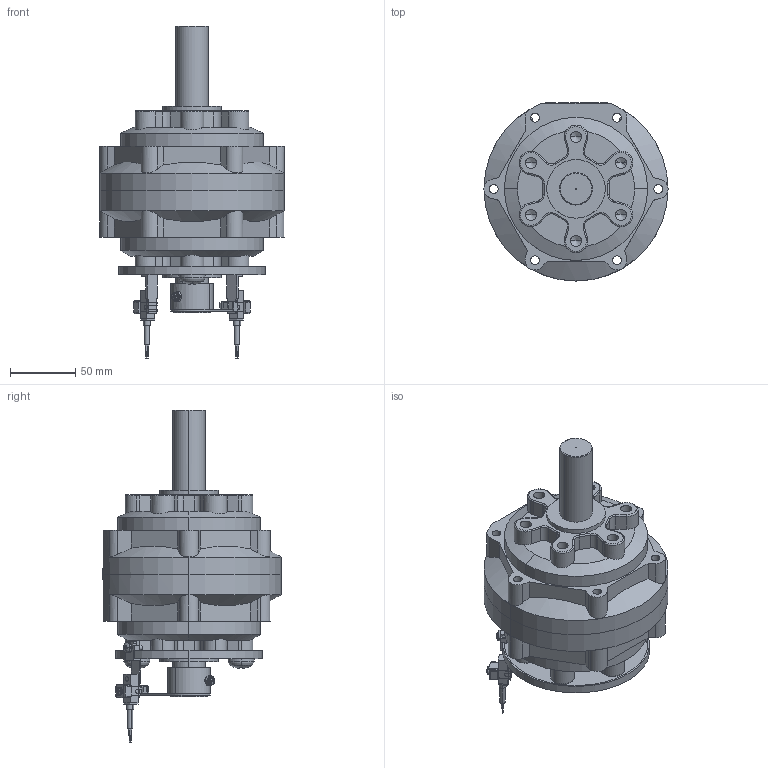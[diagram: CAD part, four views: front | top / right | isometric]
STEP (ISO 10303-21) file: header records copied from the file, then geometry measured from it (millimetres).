
FILE_DESCRIPTION (( 'STEP AP203' ), '1' );
FILE_NAME ('PRN300#-#-#-#-FM-#.STEP', '2016-01-14T16:48:23', ( '' ), ( '' ), 'SwSTEP 2.0', 'SolidWorks 2014', '' );
FILE_SCHEMA (( 'CONFIG_CONTROL_DESIGN' ));
Length unit declared in the file: millimetre
Products named in the file (18): 300-150-M4螺絲; 300FM-M4螺帽; 300FM-零件5; PRN300 (2); PRN300#-#-#-#-FM-#; 300-150-1; 300-150-側鐵片; 零件1-300; ISO 7045 - M10 x 12 -十字; 300FM-150-50-FM; 300FM-M4螺絲; 300-150-感應開關-板金1; 300FM-150-圓軸; mark-PRN300; PRN300 (3); 300FM-150-FM; PRN300 (1); 300-150-板金1
Assembly tree (19 placements, depth 3):
  PRN300#-#-#-#-FM-#
    PRN300 (2)
    PRN300 (1)
    PRN300 (3)
    mark-PRN300
    零件1-300
    300-150-感應開關-板金1  x2
      300-150-1
      300-150-側鐵片
      300-150-M4螺絲
      300-150-板金1
    300FM-150-FM
      300FM-零件5
      300FM-M4螺絲
      300FM-M4螺帽
      300FM-150-50-FM
      300FM-150-圓軸
    ISO 7045 - M10 x 12 -十字  x2
Bounding box: 141.5 x 136.88 x 255.2 mm (x, y, z)
Volume: 1389970.4 mm3; surface area: 193081 mm2
Topology: 34 solids, 34 shells, 1072 faces, 2662 edges, 1652 vertices
Faces by surface type: plane 505, cylinder 338, cone 111, torus 88, sphere 22, bspline 8
Entity records: 27971 total; most frequent: CARTESIAN_POINT 5601, DIRECTION 4483, ORIENTED_EDGE 4124, EDGE_CURVE 2062, AXIS2_PLACEMENT_3D 1717, VERTEX_POINT 1303, LINE 1049, VECTOR 1049
